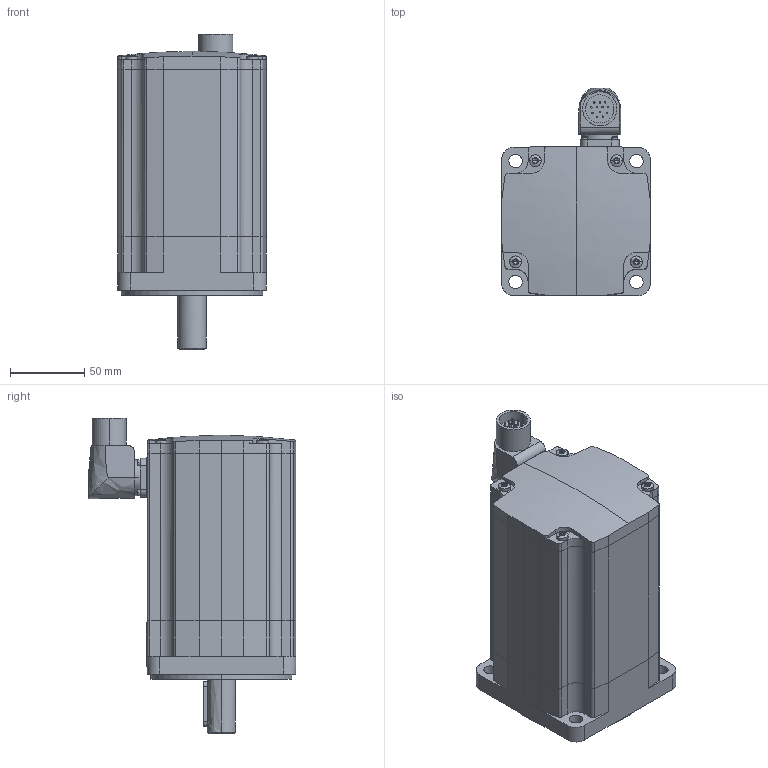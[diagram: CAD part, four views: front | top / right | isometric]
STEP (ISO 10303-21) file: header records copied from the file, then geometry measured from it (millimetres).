
FILE_DESCRIPTION(('HOOPS Exchange Step'),'2;1');
FILE_NAME('C:\Users\sesa601980\Documents\11_PLainte_client\Corrigé\BMP1002x3NA2A.stp','2022-02-15T11:32:23+01:00',('SESA601980'),('Unknown organisation'),'HOOPS Exchange 2020.2','3D Reviewer Application','Unknown authorisation');
FILE_SCHEMA( ('AUTOMOTIVE_DESIGN { 1 0 10303 214 1 1 1 1 }') );
Length unit declared in the file: millimetre
Products named in the file (3): BMP1002x3NA2A; 0
Assembly tree (2 placements, depth 2):
  BMP1002x3NA2A
    BMP1002x3NA2A
    0
Bounding box: 100 x 139.5 x 212.1 mm (x, y, z)
Volume: 1422067.1 mm3; surface area: 132631.7 mm2
Topology: 10 solids, 10 shells, 479 faces, 1189 edges, 757 vertices
Faces by surface type: bspline 479
Entity records: 15660 total; most frequent: CARTESIAN_POINT 8862, ORIENTED_EDGE 2350, EDGE_CURVE 1175, VERTEX_POINT 757, B_SPLINE_CURVE_WITH_KNOTS 707, EDGE_LOOP 536, FACE_BOUND 536, ADVANCED_FACE 479
